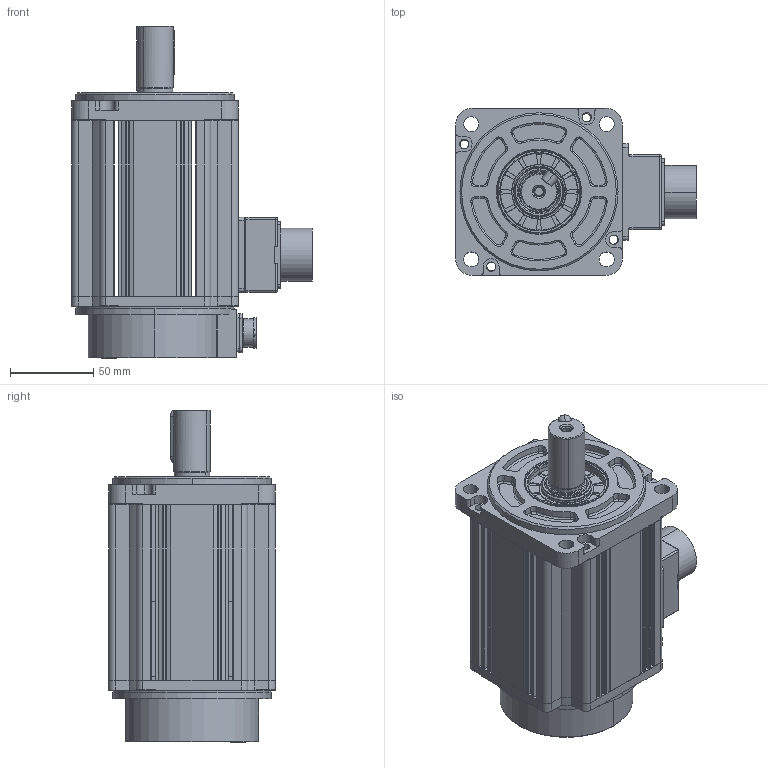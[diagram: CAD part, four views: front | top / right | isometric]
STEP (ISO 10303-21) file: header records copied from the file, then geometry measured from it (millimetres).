
FILE_DESCRIPTION (( 'STEP AP203' ), '1' );
FILE_NAME ('磁编非抱闸装配体.STEP', '2021-07-26T10:46:48', ( '' ), ( '' ), 'SwSTEP 2.0', 'SolidWorks 2016', '' );
FILE_SCHEMA (( 'CONFIG_CONTROL_DESIGN' ));
Length unit declared in the file: millimetre
Products named in the file (1): 磁编非抱闸装配体
Bounding box: 144.8 x 100.3 x 199.5 mm (x, y, z)
Surface area: 115655.5 mm2 (no closed solid volume)
Topology: 0 solids, 18 shells, 767 faces, 2486 edges, 1711 vertices
Faces by surface type: cylinder 330, plane 286, torus 59, cone 48, bspline 40, sphere 4
Entity records: 29287 total; most frequent: CARTESIAN_POINT 7635, DIRECTION 4591, ORIENTED_EDGE 4130, EDGE_CURVE 2480, VERTEX_POINT 1711, AXIS2_PLACEMENT_3D 1675, VECTOR 1241, LINE 1241
